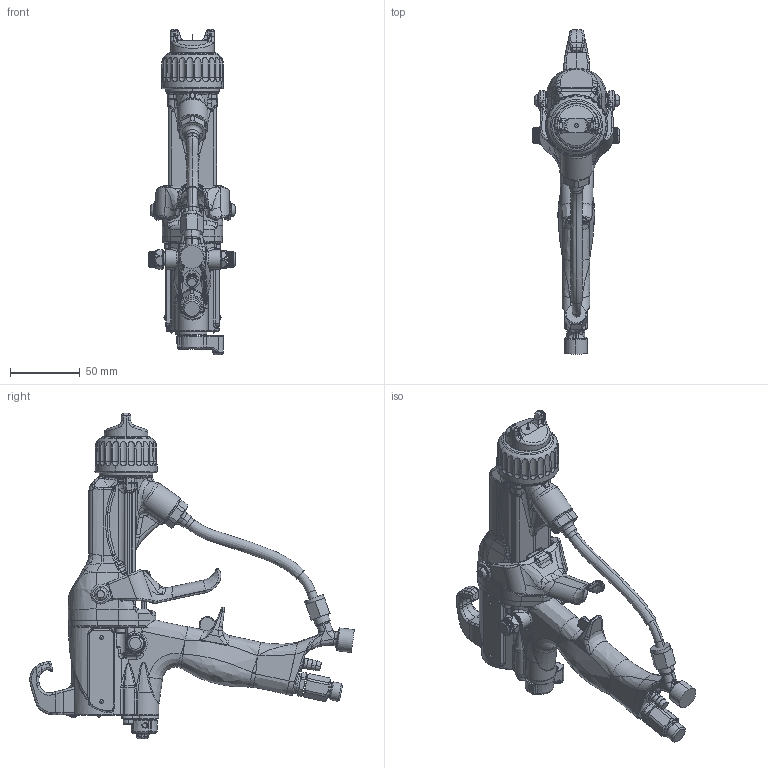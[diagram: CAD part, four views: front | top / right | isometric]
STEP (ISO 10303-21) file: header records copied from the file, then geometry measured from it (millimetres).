
FILE_DESCRIPTION((''),'2;1');
FILE_NAME('L60T98-EN-B_PRT','2020-01-01T12:08:41',('qusrh3'),(''),'CREO PARAMETRIC BY PTC INC, 2019030','CREO PARAMETRIC BY PTC INC, 2019030','');
FILE_SCHEMA(('CONFIG_CONTROL_DESIGN'));
Products named in the file (1): L60T98-EN-B_PRT
Bounding box: 62.61 x 233.22 x 234.14 mm (x, y, z)
Surface area: 89549 mm2 (no closed solid volume)
Topology: 0 solids, 60 shells, 2408 faces, 6420 edges, 3971 vertices
Faces by surface type: bspline 864, cylinder 582, plane 481, torus 256, cone 167, sphere 54, extrusion 4
Entity records: 117897 total; most frequent: CARTESIAN_POINT 66603, ORIENTED_EDGE 11823, DIRECTION 8682, EDGE_CURVE 6413, VERTEX_POINT 3971, AXIS2_PLACEMENT_3D 3565, B_SPLINE_CURVE_WITH_KNOTS 2844, EDGE_LOOP 2408
